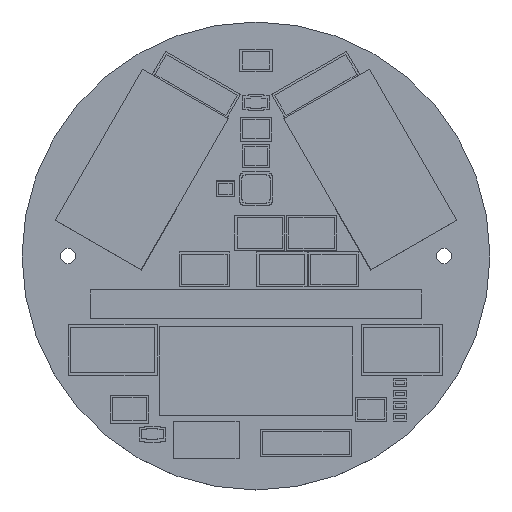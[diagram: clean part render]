
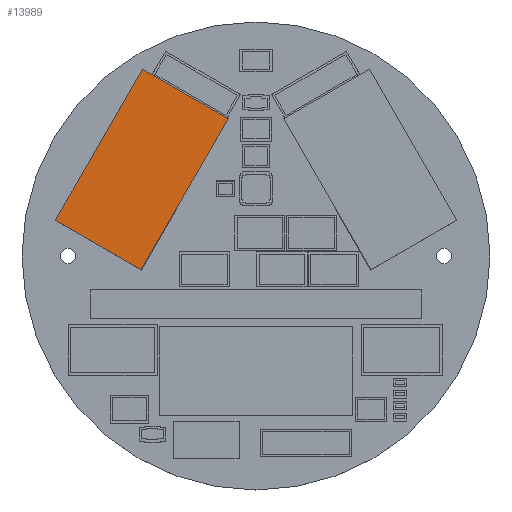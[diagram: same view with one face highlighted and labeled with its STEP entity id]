
A CAD part, top view. The second image highlights one B-rep face of the part: STEP entity #13989.
In plain terms, the highlighted planar face has unit normal (0, 0, 1).
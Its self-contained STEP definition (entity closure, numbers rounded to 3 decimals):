
#2218 = PLANE('',#2219);
#2219 = AXIS2_PLACEMENT_3D('',#2220,#2221,#2222);
#2220 = CARTESIAN_POINT('',(-7.196,35.736,3.));
#2221 = DIRECTION('',(0.5,0.866,0.));
#2222 = DIRECTION('',(0.,0.,1.));
#2246 = PLANE('',#2247);
#2247 = AXIS2_PLACEMENT_3D('',#2248,#2249,#2250);
#2248 = CARTESIAN_POINT('',(-29.946,-3.668,3.));
#2249 = DIRECTION('',(-0.866,0.5,0.));
#2250 = DIRECTION('',(0.,0.,1.));
#2274 = PLANE('',#2275);
#2275 = AXIS2_PLACEMENT_3D('',#2276,#2277,#2278);
#2276 = CARTESIAN_POINT('',(-29.946,-3.668,3.));
#2277 = DIRECTION('',(0.5,0.866,0.));
#2278 = DIRECTION('',(0.,0.,1.));
#2302 = PLANE('',#2303);
#2303 = AXIS2_PLACEMENT_3D('',#2304,#2305,#2306);
#2304 = CARTESIAN_POINT('',(-52.376,9.282,3.));
#2305 = DIRECTION('',(-0.866,0.5,0.));
#2306 = DIRECTION('',(0.,0.,1.));
#8050 = VERTEX_POINT('',#8051);
#8051 = CARTESIAN_POINT('',(-7.196,35.736,13.));
#8096 = VERTEX_POINT('',#8097);
#8097 = CARTESIAN_POINT('',(-29.626,48.686,13.));
#8118 = EDGE_CURVE('',#8050,#8096,#8119,.T.);
#8119 = SURFACE_CURVE('',#8120,(#8124,#8131),.PCURVE_S1.);
#8120 = LINE('',#8121,#8122);
#8121 = CARTESIAN_POINT('',(-7.196,35.736,13.));
#8122 = VECTOR('',#8123,1.);
#8123 = DIRECTION('',(-0.866,0.5,0.));
#8124 = PCURVE('',#2218,#8125);
#8125 = DEFINITIONAL_REPRESENTATION('',(#8126),#8130);
#8126 = LINE('',#8127,#8128);
#8127 = CARTESIAN_POINT('',(10.,0.));
#8128 = VECTOR('',#8129,1.);
#8129 = DIRECTION('',(0.,-1.));
#8130 = ( GEOMETRIC_REPRESENTATION_CONTEXT(2) 
PARAMETRIC_REPRESENTATION_CONTEXT() REPRESENTATION_CONTEXT('2D SPACE',''
  ) );
#8131 = PCURVE('',#8132,#8137);
#8132 = PLANE('',#8133);
#8133 = AXIS2_PLACEMENT_3D('',#8134,#8135,#8136);
#8134 = CARTESIAN_POINT('',(-29.946,-3.668,13.));
#8135 = DIRECTION('',(0.,0.,1.));
#8136 = DIRECTION('',(0.5,0.866,0.));
#8137 = DEFINITIONAL_REPRESENTATION('',(#8138),#8142);
#8138 = LINE('',#8139,#8140);
#8139 = CARTESIAN_POINT('',(45.5,0.));
#8140 = VECTOR('',#8141,1.);
#8141 = DIRECTION('',(0.,1.));
#8142 = ( GEOMETRIC_REPRESENTATION_CONTEXT(2) 
PARAMETRIC_REPRESENTATION_CONTEXT() REPRESENTATION_CONTEXT('2D SPACE',''
  ) );
#8198 = VERTEX_POINT('',#8199);
#8199 = CARTESIAN_POINT('',(-29.946,-3.668,13.));
#8220 = EDGE_CURVE('',#8198,#8050,#8221,.T.);
#8221 = SURFACE_CURVE('',#8222,(#8226,#8233),.PCURVE_S1.);
#8222 = LINE('',#8223,#8224);
#8223 = CARTESIAN_POINT('',(-29.946,-3.668,13.));
#8224 = VECTOR('',#8225,1.);
#8225 = DIRECTION('',(0.5,0.866,0.));
#8226 = PCURVE('',#2246,#8227);
#8227 = DEFINITIONAL_REPRESENTATION('',(#8228),#8232);
#8228 = LINE('',#8229,#8230);
#8229 = CARTESIAN_POINT('',(10.,0.));
#8230 = VECTOR('',#8231,1.);
#8231 = DIRECTION('',(0.,1.));
#8232 = ( GEOMETRIC_REPRESENTATION_CONTEXT(2) 
PARAMETRIC_REPRESENTATION_CONTEXT() REPRESENTATION_CONTEXT('2D SPACE',''
  ) );
#8233 = PCURVE('',#8132,#8234);
#8234 = DEFINITIONAL_REPRESENTATION('',(#8235),#8239);
#8235 = LINE('',#8236,#8237);
#8236 = CARTESIAN_POINT('',(0.,0.));
#8237 = VECTOR('',#8238,1.);
#8238 = DIRECTION('',(1.,0.));
#8239 = ( GEOMETRIC_REPRESENTATION_CONTEXT(2) 
PARAMETRIC_REPRESENTATION_CONTEXT() REPRESENTATION_CONTEXT('2D SPACE',''
  ) );
#8319 = VERTEX_POINT('',#8320);
#8320 = CARTESIAN_POINT('',(-52.376,9.282,13.));
#8341 = EDGE_CURVE('',#8198,#8319,#8342,.T.);
#8342 = SURFACE_CURVE('',#8343,(#8347,#8354),.PCURVE_S1.);
#8343 = LINE('',#8344,#8345);
#8344 = CARTESIAN_POINT('',(-29.946,-3.668,13.));
#8345 = VECTOR('',#8346,1.);
#8346 = DIRECTION('',(-0.866,0.5,0.));
#8347 = PCURVE('',#2274,#8348);
#8348 = DEFINITIONAL_REPRESENTATION('',(#8349),#8353);
#8349 = LINE('',#8350,#8351);
#8350 = CARTESIAN_POINT('',(10.,0.));
#8351 = VECTOR('',#8352,1.);
#8352 = DIRECTION('',(0.,-1.));
#8353 = ( GEOMETRIC_REPRESENTATION_CONTEXT(2) 
PARAMETRIC_REPRESENTATION_CONTEXT() REPRESENTATION_CONTEXT('2D SPACE',''
  ) );
#8354 = PCURVE('',#8132,#8355);
#8355 = DEFINITIONAL_REPRESENTATION('',(#8356),#8360);
#8356 = LINE('',#8357,#8358);
#8357 = CARTESIAN_POINT('',(0.,0.));
#8358 = VECTOR('',#8359,1.);
#8359 = DIRECTION('',(0.,1.));
#8360 = ( GEOMETRIC_REPRESENTATION_CONTEXT(2) 
PARAMETRIC_REPRESENTATION_CONTEXT() REPRESENTATION_CONTEXT('2D SPACE',''
  ) );
#8367 = EDGE_CURVE('',#8319,#8096,#8368,.T.);
#8368 = SURFACE_CURVE('',#8369,(#8373,#8380),.PCURVE_S1.);
#8369 = LINE('',#8370,#8371);
#8370 = CARTESIAN_POINT('',(-52.376,9.282,13.));
#8371 = VECTOR('',#8372,1.);
#8372 = DIRECTION('',(0.5,0.866,0.));
#8373 = PCURVE('',#2302,#8374);
#8374 = DEFINITIONAL_REPRESENTATION('',(#8375),#8379);
#8375 = LINE('',#8376,#8377);
#8376 = CARTESIAN_POINT('',(10.,0.));
#8377 = VECTOR('',#8378,1.);
#8378 = DIRECTION('',(0.,1.));
#8379 = ( GEOMETRIC_REPRESENTATION_CONTEXT(2) 
PARAMETRIC_REPRESENTATION_CONTEXT() REPRESENTATION_CONTEXT('2D SPACE',''
  ) );
#8380 = PCURVE('',#8132,#8381);
#8381 = DEFINITIONAL_REPRESENTATION('',(#8382),#8386);
#8382 = LINE('',#8383,#8384);
#8383 = CARTESIAN_POINT('',(0.,25.9));
#8384 = VECTOR('',#8385,1.);
#8385 = DIRECTION('',(1.,0.));
#8386 = ( GEOMETRIC_REPRESENTATION_CONTEXT(2) 
PARAMETRIC_REPRESENTATION_CONTEXT() REPRESENTATION_CONTEXT('2D SPACE',''
  ) );
#13989 = ADVANCED_FACE('',(#13990),#8132,.T.);
#13990 = FACE_BOUND('',#13991,.T.);
#13991 = EDGE_LOOP('',(#13992,#13993,#13994,#13995));
#13992 = ORIENTED_EDGE('',*,*,#8341,.F.);
#13993 = ORIENTED_EDGE('',*,*,#8220,.T.);
#13994 = ORIENTED_EDGE('',*,*,#8118,.T.);
#13995 = ORIENTED_EDGE('',*,*,#8367,.F.);
